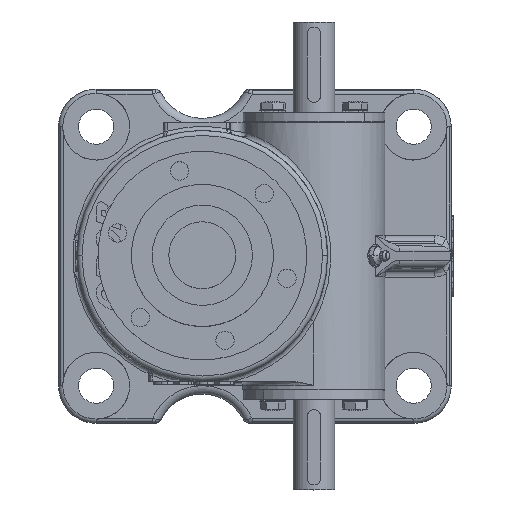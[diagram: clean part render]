
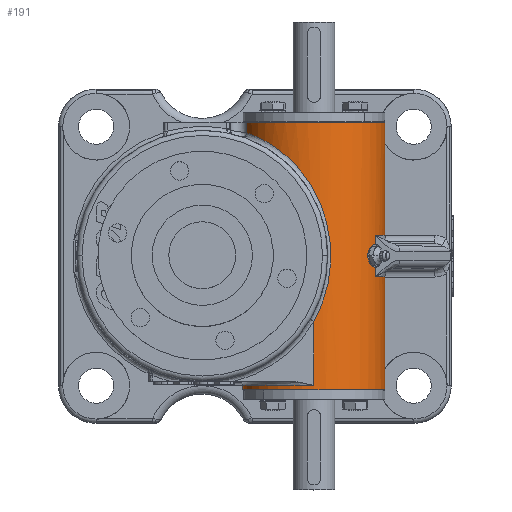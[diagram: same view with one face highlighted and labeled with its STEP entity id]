
A CAD part, top view. The second image highlights one B-rep face of the part: STEP entity #191.
In plain terms, the highlighted cylindrical face has radius 42.5 mm (diameter 85 mm), a partial arc.
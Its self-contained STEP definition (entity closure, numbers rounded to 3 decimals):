
#191=ADVANCED_FACE('',(#2076),#2077,.T.);
#2076=FACE_OUTER_BOUND('',#5850,.T.);
#2077=CYLINDRICAL_SURFACE('',#5851,42.5);
#5850=EDGE_LOOP('',(#12225,#12226,#12227,#12228,#12229,#12230,#12231,#12232,#12233,#12234,#12235,#12236,#12237,#12238));
#5851=AXIS2_PLACEMENT_3D('',#12239,#12240,#12241);
#12225=ORIENTED_EDGE('',*,*,#26929,.F.);
#12226=ORIENTED_EDGE('',*,*,#26930,.T.);
#12227=ORIENTED_EDGE('',*,*,#26931,.T.);
#12228=ORIENTED_EDGE('',*,*,#26932,.F.);
#12229=ORIENTED_EDGE('',*,*,#26933,.T.);
#12230=ORIENTED_EDGE('',*,*,#26934,.F.);
#12231=ORIENTED_EDGE('',*,*,#26922,.F.);
#12232=ORIENTED_EDGE('',*,*,#26935,.T.);
#12233=ORIENTED_EDGE('',*,*,#26920,.F.);
#12234=ORIENTED_EDGE('',*,*,#26936,.F.);
#12235=ORIENTED_EDGE('',*,*,#26937,.F.);
#12236=ORIENTED_EDGE('',*,*,#26938,.T.);
#12237=ORIENTED_EDGE('',*,*,#26939,.F.);
#12238=ORIENTED_EDGE('',*,*,#26940,.F.);
#12239=CARTESIAN_POINT('',(66.78,0.,70.0));
#12240=DIRECTION('',(-0.0,1.0,0.));
#12241=DIRECTION('',(1.0,0.0,0.0));
#26920=EDGE_CURVE('',#32272,#32273,#32274,.T.);
#26922=EDGE_CURVE('',#32275,#32277,#32278,.T.);
#26929=EDGE_CURVE('',#32289,#32290,#32291,.T.);
#26930=EDGE_CURVE('',#32289,#32292,#32293,.T.);
#26931=EDGE_CURVE('',#32292,#32294,#32295,.T.);
#26932=EDGE_CURVE('',#32296,#32294,#32297,.T.);
#26933=EDGE_CURVE('',#32296,#32298,#32299,.T.);
#26934=EDGE_CURVE('',#32277,#32298,#32300,.T.);
#26935=EDGE_CURVE('',#32275,#32273,#32301,.T.);
#26936=EDGE_CURVE('',#32302,#32272,#32303,.T.);
#26937=EDGE_CURVE('',#32304,#32302,#32305,.T.);
#26938=EDGE_CURVE('',#32304,#32306,#32307,.T.);
#26939=EDGE_CURVE('',#32308,#32306,#32309,.T.);
#26940=EDGE_CURVE('',#32290,#32308,#32310,.T.);
#32272=VERTEX_POINT('',#41030);
#32273=VERTEX_POINT('',#41031);
#32274=LINE('',#41032,#41033);
#32275=VERTEX_POINT('',#41034);
#32277=VERTEX_POINT('',#41036);
#32278=LINE('',#41037,#41038);
#32289=VERTEX_POINT('',#41064);
#32290=VERTEX_POINT('',#41065);
#32291=LINE('',#41066,#41067);
#32292=VERTEX_POINT('',#41068);
#32293=CIRCLE('',#41069,42.5);
#32294=VERTEX_POINT('',#41070);
#32295=LINE('',#41071,#41072);
#32296=VERTEX_POINT('',#41073);
#32297=B_SPLINE_CURVE_WITH_KNOTS('',3,(#41074,#41075,#41076,#41077,#41078,#41079,#41080,#41081,#41082,#41083,#41084,#41085,#41086,#41087,#41088,#41089,#41090),.UNSPECIFIED.,.F.,.F.,(4,1,1,1,1,1,1,1,1,1,1,1,1,1,4),(0.,2.145,3.217,4.289,5.362,6.434,8.579,8.936,9.294,10.366,10.723,11.796,12.868,13.941,15.013),.UNSPECIFIED.);
#32298=VERTEX_POINT('',#41091);
#32299=LINE('',#41092,#41093);
#32300=CIRCLE('',#41094,42.5);
#32301=CIRCLE('',#41095,42.5);
#32302=VERTEX_POINT('',#41096);
#32303=CIRCLE('',#41097,42.5);
#32304=VERTEX_POINT('',#41098);
#32305=LINE('',#41099,#41100);
#32306=VERTEX_POINT('',#41101);
#32307=B_SPLINE_CURVE_WITH_KNOTS('',3,(#41102,#41103,#41104,#41105,#41106,#41107,#41108,#41109,#41110,#41111,#41112,#41113,#41114,#41115,#41116,#41117,#41118,#41119),.UNSPECIFIED.,.F.,.F.,(4,2,2,2,2,2,2,2,4),(1.057,1.321,1.585,1.849,2.114,2.378,2.642,2.906,3.17),.UNSPECIFIED.);
#32308=VERTEX_POINT('',#41120);
#32309=LINE('',#41121,#41122);
#32310=CIRCLE('',#41123,42.5);
#41030=CARTESIAN_POINT('',(109.28,-12.5,70.0));
#41031=CARTESIAN_POINT('',(109.28,-80.0,70.0));
#41032=CARTESIAN_POINT('',(109.28,0.,70.0));
#41033=VECTOR('',#53731,1.0);
#41034=CARTESIAN_POINT('',(24.28,-80.0,70.0));
#41036=CARTESIAN_POINT('',(24.28,-77.5,70.0));
#41037=CARTESIAN_POINT('',(24.28,0.,70.0));
#41038=VECTOR('',#53735,1.0);
#41064=CARTESIAN_POINT('',(109.28,80.0,70.0));
#41065=CARTESIAN_POINT('',(109.28,12.5,70.0));
#41066=CARTESIAN_POINT('',(109.28,0.,70.0));
#41067=VECTOR('',#53745,1.0);
#41068=CARTESIAN_POINT('',(26.517,80.0,83.606));
#41069=AXIS2_PLACEMENT_3D('',#53746,#53747,#53748);
#41070=CARTESIAN_POINT('',(26.517,73.642,83.606));
#41071=CARTESIAN_POINT('',(26.517,80.0,83.606));
#41072=VECTOR('',#53749,6.358);
#41073=CARTESIAN_POINT('',(66.78,-39.328,112.5));
#41074=CARTESIAN_POINT('',(66.78,-39.328,112.5));
#41075=CARTESIAN_POINT('',(70.206,-33.168,112.5));
#41076=CARTESIAN_POINT('',(74.166,-23.051,111.902));
#41077=CARTESIAN_POINT('',(76.646,-8.987,111.345));
#41078=CARTESIAN_POINT('',(77.125,1.887,111.219));
#41079=CARTESIAN_POINT('',(76.158,12.65,111.464));
#41080=CARTESIAN_POINT('',(73.043,26.613,112.107));
#41081=CARTESIAN_POINT('',(68.122,37.648,112.679));
#41082=CARTESIAN_POINT('',(63.006,45.481,112.348));
#41083=CARTESIAN_POINT('',(59.582,50.257,111.964));
#41084=CARTESIAN_POINT('',(55.747,54.662,111.155));
#41085=CARTESIAN_POINT('',(50.096,60.096,109.214));
#41086=CARTESIAN_POINT('',(44.113,64.866,106.323));
#41087=CARTESIAN_POINT('',(36.745,69.316,100.577));
#41088=CARTESIAN_POINT('',(30.517,72.2,92.914));
#41089=CARTESIAN_POINT('',(27.592,73.269,86.787));
#41090=CARTESIAN_POINT('',(26.517,73.642,83.606));
#41091=CARTESIAN_POINT('',(66.78,-77.5,112.5));
#41092=CARTESIAN_POINT('',(66.78,-39.328,112.5));
#41093=VECTOR('',#53750,38.172);
#41094=AXIS2_PLACEMENT_3D('',#53751,#53752,#53753);
#41095=AXIS2_PLACEMENT_3D('',#53754,#53755,#53756);
#41096=CARTESIAN_POINT('',(103.441,-12.5,91.5));
#41097=AXIS2_PLACEMENT_3D('',#53757,#53758,#53759);
#41098=CARTESIAN_POINT('',(103.441,-7.0,91.5));
#41099=CARTESIAN_POINT('',(103.441,-7.0,91.5));
#41100=VECTOR('',#53760,5.5);
#41101=CARTESIAN_POINT('',(103.441,7.0,91.5));
#41102=CARTESIAN_POINT('',(103.441,-7.0,91.5));
#41103=CARTESIAN_POINT('',(102.995,-7.0,92.26));
#41104=CARTESIAN_POINT('',(102.494,-6.824,93.054));
#41105=CARTESIAN_POINT('',(101.528,-6.109,94.486));
#41106=CARTESIAN_POINT('',(101.064,-5.57,95.125));
#41107=CARTESIAN_POINT('',(100.31,-4.329,96.122));
#41108=CARTESIAN_POINT('',(99.971,-3.543,96.547));
#41109=CARTESIAN_POINT('',(99.514,-1.819,97.108));
#41110=CARTESIAN_POINT('',(99.399,-0.881,97.245));
#41111=CARTESIAN_POINT('',(99.399,0.881,97.245));
#41112=CARTESIAN_POINT('',(99.514,1.819,97.108));
#41113=CARTESIAN_POINT('',(99.971,3.543,96.547));
#41114=CARTESIAN_POINT('',(100.31,4.329,96.122));
#41115=CARTESIAN_POINT('',(101.064,5.57,95.125));
#41116=CARTESIAN_POINT('',(101.528,6.109,94.486));
#41117=CARTESIAN_POINT('',(102.494,6.824,93.054));
#41118=CARTESIAN_POINT('',(102.995,7.0,92.26));
#41119=CARTESIAN_POINT('',(103.441,7.0,91.5));
#41120=CARTESIAN_POINT('',(103.441,12.5,91.5));
#41121=CARTESIAN_POINT('',(103.441,12.5,91.5));
#41122=VECTOR('',#53761,5.5);
#41123=AXIS2_PLACEMENT_3D('',#53762,#53763,#53764);
#53731=DIRECTION('',(0.0,-1.0,0.));
#53735=DIRECTION('',(0.0,1.0,0.));
#53745=DIRECTION('',(0.0,-1.0,0.));
#53746=CARTESIAN_POINT('',(66.78,80.0,70.0));
#53747=DIRECTION('',(0.0,-1.0,0.0));
#53748=DIRECTION('',(1.0,0.0,0.0));
#53749=DIRECTION('',(0.0,-1.0,0.0));
#53750=DIRECTION('',(0.0,-1.0,0.0));
#53751=CARTESIAN_POINT('',(66.78,-77.5,70.0));
#53752=DIRECTION('',(0.,1.0,0.));
#53753=DIRECTION('',(-0.959,0.,0.285));
#53754=CARTESIAN_POINT('',(66.78,-80.0,70.0));
#53755=DIRECTION('',(-0.0,1.0,0.0));
#53756=DIRECTION('',(1.0,0.0,0.0));
#53757=CARTESIAN_POINT('',(66.78,-12.5,70.0));
#53758=DIRECTION('',(0.,1.0,0.));
#53759=DIRECTION('',(0.996,0.,-0.085));
#53760=DIRECTION('',(0.0,-1.0,0.0));
#53761=DIRECTION('',(0.0,-1.0,0.0));
#53762=CARTESIAN_POINT('',(66.78,12.5,70.0));
#53763=DIRECTION('',(0.,-1.0,0.));
#53764=DIRECTION('',(0.996,0.,-0.085));
